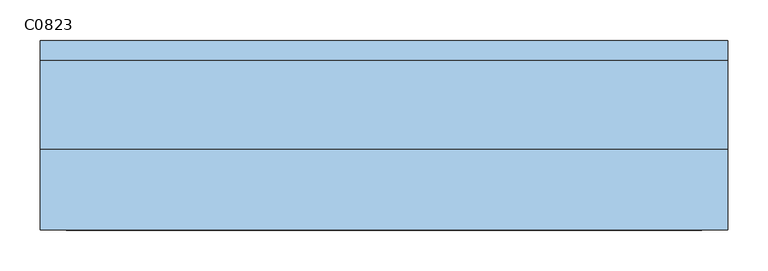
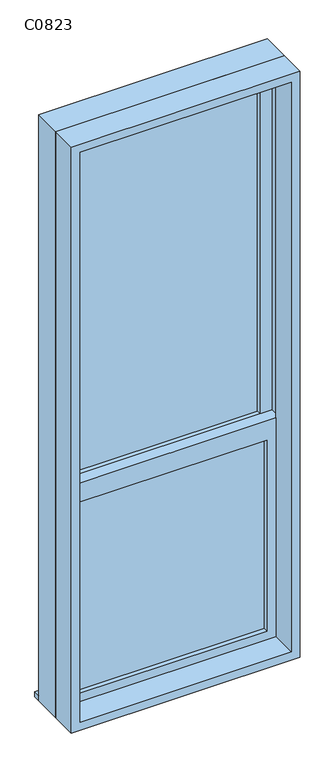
"""IFC4 building model written with IfcOpenShell, lengths in millimetres: window geometry, 上下拉窗1 : C0823."""

from ifc_helpers import new_model, si_unit, frame, origin, place, context, project, spatial, polyline, outline, extrude, source, transform, mapped, element, save


def c0823_e49a13fc(model_context):
    return source(origin(), model_context, "Body", "SweptSolid", [
        extrude(outline(polyline([(-360.0, 67.2615397), (360.0, 67.2615397), (360.0, 57.2615397), (-360.0, 57.2615397), (-360.0, 67.2615397)])), frame((0.0, 0.0, 1190.0), z_axis=(0.0, 0.0, 1.0), x_axis=(1.0, 0.0, 0.0)), (0.0, 0.0, 1.0), 1345.0),
        extrude(outline(polyline([(-360.0, 22.2615397), (360.0, 22.2615397), (360.0, 12.2615397), (-360.0, 12.2615397), (-360.0, 22.2615397)])), frame((0.0, 0.0, 365.0), z_axis=(0.0, 0.0, 1.0), x_axis=(1.0, 0.0, 0.0)), (0.0, 0.0, 1.0), 749.4323551),
        extrude(outline(polyline([(1190.0, -405.0), (320.0, -405.0), (320.0, 405.0), (1190.0, 405.0), (1190.0, -405.0)]), holes=[polyline([(1114.4323551, -360.0), (1114.4323551, 360.0), (365.0, 360.0), (365.0, -360.0), (1114.4323551, -360.0)])]), frame((0.0, -5.2384603, 0.0), z_axis=(0.0, 1.0, 0.0), x_axis=(0.0, 0.0, 1.0)), (0.0, 0.0, 1.0), 45.0),
        extrude(outline(polyline([(2580.0, -405.0), (1132.5, -405.0), (1132.5, 405.0), (2580.0, 405.0), (2580.0, -405.0)]), holes=[polyline([(2535.0, -360.0), (2535.0, 360.0), (1190.0, 360.0), (1190.0, -360.0), (2535.0, -360.0)])]), frame((0.0, 39.7615397, 0.0), z_axis=(0.0, 1.0, 0.0), x_axis=(0.0, 0.0, 1.0)), (0.0, 0.0, 1.0), 45.0),
        extrude(outline(polyline([(2600.0, -425.0), (300.0, -425.0), (300.0, 425.0), (2600.0, 425.0), (2600.0, -425.0)]), holes=[polyline([(2568.0, -393.0), (2568.0, 393.0), (332.0, 393.0), (332.0, -393.0), (2568.0, -393.0)])]), frame((0.0, -105.2384603, 0.0), z_axis=(0.0, 1.0, 0.0), x_axis=(0.0, 0.0, 1.0)), (0.0, 0.0, 1.0), 100.0),
        extrude(outline(polyline([(2600.0, 425.0), (2600.0, -425.0), (300.0, -425.0), (300.0, 425.0), (2600.0, 425.0)]), holes=[polyline([(2580.0, 405.0), (320.0, 405.0), (320.0, -405.0), (2580.0, -405.0), (2580.0, 405.0)])]), frame((0.0, -5.2384603, 0.0), z_axis=(0.0, 1.0, 0.0), x_axis=(0.0, 0.0, 1.0)), (0.0, 0.0, 1.0), 110.0),
        extrude(outline(polyline([(-425.0, 129.7615397), (425.0, 129.7615397), (425.0, 104.7615397), (-425.0, 104.7615397), (-425.0, 129.7615397)])), frame((0.0, 0.0, 300.0), z_axis=(0.0, 0.0, 1.0), x_axis=(1.0, 0.0, 0.0)), (0.0, 0.0, 1.0), 20.0),
    ])


if __name__ == "__main__":
    model = new_model("IFC4")
    model_context = context("Model", 3, world=origin())
    ifc_project = project(units=[si_unit("LENGTHUNIT", "METRE", prefix="MILLI")], contexts=[model_context])
    site = spatial("IfcSite", under=ifc_project)
    building = spatial("IfcBuilding", under=site)
    placement = place(None, origin())
    c0823_shape = c0823_e49a13fc(model_context)
    element("IfcWindow", 1, ObjectType="上下拉窗1 : C0823", at=placement, inside=building, context=model_context, shape_type="MappedRepresentation", body=[
        mapped(c0823_shape, transform((0.0, 0.0, 0.0), x_axis=(1.0, 0.0, 0.0), y_axis=(0.0, 1.0, 0.0), z_axis=(0.0, 0.0, 1.0))),
    ])
    save(model, "model.ifc")
